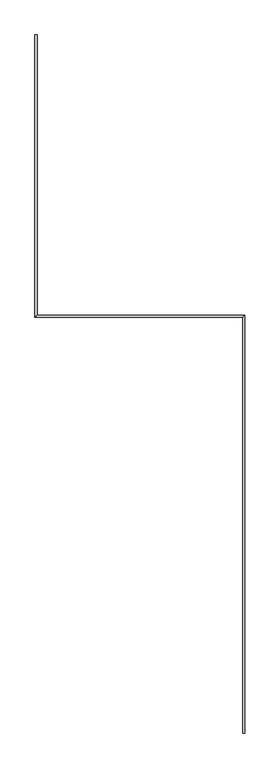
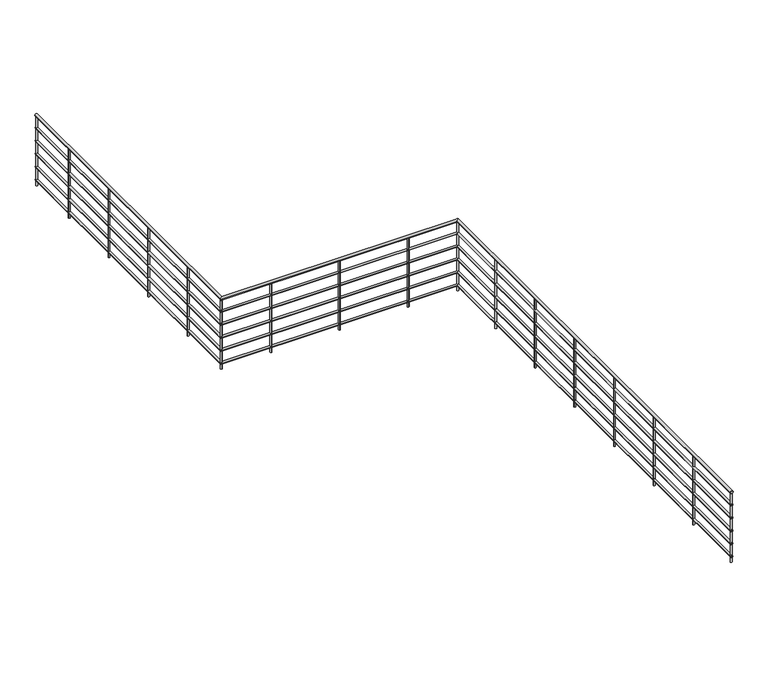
"""IFC4 building model written with IfcOpenShell, lengths in millimetres: railing geometry, r パイプ H1100."""

from ifc_helpers import new_model, si_unit, point, frame, frame_2d, origin, place, context, project, spatial, circle_curve, ellipse_curve, trimmed, segment, composite_curve, outline, extrude, source, transform, mapped, element, save
from ifc_brep_helpers import plane_surface, cylinder_surface, advanced_brep


def railing_652278a1(model_context):
    return source(origin(), model_context, "Body", "SolidModel", [
        advanced_brep(
        [(-3040.9784025, -2650.3131013, 5680.0), (-3000.9784025, -2650.3131013, 5680.0), (-3040.9784025, 4254.6868987, 5680.0), (-3000.9784025, 4294.6868987, 5680.0), (-6490.9784025, 4254.6868987, 5680.0), (-6450.9784025, 4294.6868987, 5680.0), (-6490.9784025, 8949.6868987, 5680.0), (-6450.9784025, 8949.6868987, 5680.0)],
        [
            (0, 1, circle_curve(frame((-3020.9784025, -2650.3131013, 5680.0), z_axis=(0.0, -1.0, 0.0), x_axis=(1.0, 0.0, 0.0)), 20.0)),
            (1, 0, circle_curve(frame((-3020.9784025, -2650.3131013, 5680.0), z_axis=(0.0, -1.0, 0.0), x_axis=(1.0, 0.0, 0.0)), 20.0)),
            (0, 2),
            (2, 3, ellipse_curve(frame((-3020.9784025, 4274.6868987, 5680.0), z_axis=(0.707106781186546, -0.7071067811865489, 0.0), x_axis=(-0.7071067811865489, -0.7071067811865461, 0.0)), 28.2842712, 20.0)),
            (3, 1),
            (3, 2, ellipse_curve(frame((-3020.9784025, 4274.6868987, 5680.0), z_axis=(0.707106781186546, -0.7071067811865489, 0.0), x_axis=(-0.7071067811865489, -0.7071067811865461, 0.0)), 28.2842712, 20.0)),
            (2, 4),
            (4, 5, ellipse_curve(frame((-6470.9784025, 4274.6868987, 5680.0), z_axis=(0.707106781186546, -0.7071067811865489, 0.0), x_axis=(0.707106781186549, 0.7071067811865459, 0.0)), 28.2842712, 20.0)),
            (5, 3),
            (5, 4, ellipse_curve(frame((-6470.9784025, 4274.6868987, 5680.0), z_axis=(0.707106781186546, -0.7071067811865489, 0.0), x_axis=(0.707106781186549, 0.7071067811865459, 0.0)), 28.2842712, 20.0)),
            (6, 7, circle_curve(frame((-6470.9784025, 8949.6868987, 5680.0), z_axis=(0.0, 1.0, 0.0), x_axis=(1.0, 0.0, 0.0)), 20.0)),
            (7, 6, circle_curve(frame((-6470.9784025, 8949.6868987, 5680.0), z_axis=(0.0, 1.0, 0.0), x_axis=(1.0, 0.0, 0.0)), 20.0)),
            (4, 6),
            (7, 5),
        ],
        [
            plane_surface(frame((-3020.9784025, -2650.3131013, 5700.0), z_axis=(0.0, -1.0, 0.0), x_axis=(0.0, 0.0, 1.0))),
            cylinder_surface(frame((-3020.9784025, -2650.3131013, 5680.0), z_axis=(0.0, -1.0, 0.0), x_axis=(1.0, 0.0, 0.0)), 20.0),
            cylinder_surface(frame((-3020.9784025, 4274.6868987, 5680.0), z_axis=(1.0, 0.0, 0.0), x_axis=(0.0, 1.0, 0.0)), 20.0),
            plane_surface(frame((-6470.9784025, 8949.6868987, 5700.0), z_axis=(0.0, 1.0, 0.0), x_axis=(0.0, 0.0, 1.0))),
            cylinder_surface(frame((-6470.9784025, 4274.6868987, 5680.0), z_axis=(0.0, -1.0, 0.0), x_axis=(1.0, 0.0, 0.0)), 20.0),
        ],
        [
            (0, [[1, 2]]),
            (1, [[-1, 3, 4, 5]]),
            (1, [[-2, -5, 6, -3]]),
            (2, [[-4, 7, 8, 9]]),
            (2, [[-6, -9, 10, -7]]),
            (3, [[11, 12]]),
            (4, [[-8, 13, -12, 14]]),
            (4, [[-10, -14, -11, -13]]),
        ],
    ),
        advanced_brep(
        [(-3035.9784025, -2650.3131013, 5485.0), (-3005.9784025, -2650.3131013, 5485.0), (-3035.9784025, 4259.6868987, 5485.0), (-3005.9784025, 4289.6868987, 5485.0), (-6485.9784025, 4259.6868987, 5485.0), (-6455.9784025, 4289.6868987, 5485.0), (-6485.9784025, 8949.6868987, 5485.0), (-6455.9784025, 8949.6868987, 5485.0)],
        [
            (0, 1, circle_curve(frame((-3020.9784025, -2650.3131013, 5485.0), z_axis=(0.0, -1.0, 0.0), x_axis=(1.0, 0.0, 0.0)), 15.0)),
            (1, 0, circle_curve(frame((-3020.9784025, -2650.3131013, 5485.0), z_axis=(0.0, -1.0, 0.0), x_axis=(1.0, 0.0, 0.0)), 15.0)),
            (0, 2),
            (2, 3, ellipse_curve(frame((-3020.9784025, 4274.6868987, 5485.0), z_axis=(0.707106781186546, -0.7071067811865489, 0.0), x_axis=(-0.7071067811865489, -0.7071067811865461, 0.0)), 21.2132034, 15.0)),
            (3, 1),
            (3, 2, ellipse_curve(frame((-3020.9784025, 4274.6868987, 5485.0), z_axis=(0.707106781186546, -0.7071067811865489, 0.0), x_axis=(-0.7071067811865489, -0.7071067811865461, 0.0)), 21.2132034, 15.0)),
            (2, 4),
            (4, 5, ellipse_curve(frame((-6470.9784025, 4274.6868987, 5485.0), z_axis=(0.707106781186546, -0.7071067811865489, 0.0), x_axis=(0.707106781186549, 0.7071067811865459, 0.0)), 21.2132034, 15.0)),
            (5, 3),
            (5, 4, ellipse_curve(frame((-6470.9784025, 4274.6868987, 5485.0), z_axis=(0.707106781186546, -0.7071067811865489, 0.0), x_axis=(0.707106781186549, 0.7071067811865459, 0.0)), 21.2132034, 15.0)),
            (6, 7, circle_curve(frame((-6470.9784025, 8949.6868987, 5485.0), z_axis=(0.0, 1.0, 0.0), x_axis=(1.0, 0.0, 0.0)), 15.0)),
            (7, 6, circle_curve(frame((-6470.9784025, 8949.6868987, 5485.0), z_axis=(0.0, 1.0, 0.0), x_axis=(1.0, 0.0, 0.0)), 15.0)),
            (4, 6),
            (7, 5),
        ],
        [
            plane_surface(frame((-3020.9784025, -2650.3131013, 5500.0), z_axis=(0.0, -1.0, 0.0), x_axis=(0.0, 0.0, 1.0))),
            cylinder_surface(frame((-3020.9784025, -2650.3131013, 5485.0), z_axis=(0.0, -1.0, 0.0), x_axis=(1.0, 0.0, 0.0)), 15.0),
            cylinder_surface(frame((-3020.9784025, 4274.6868987, 5485.0), z_axis=(1.0, 0.0, 0.0), x_axis=(0.0, 1.0, 0.0)), 15.0),
            plane_surface(frame((-6470.9784025, 8949.6868987, 5500.0), z_axis=(0.0, 1.0, 0.0), x_axis=(0.0, 0.0, 1.0))),
            cylinder_surface(frame((-6470.9784025, 4274.6868987, 5485.0), z_axis=(0.0, -1.0, 0.0), x_axis=(1.0, 0.0, 0.0)), 15.0),
        ],
        [
            (0, [[1, 2]]),
            (1, [[-1, 3, 4, 5]]),
            (1, [[-2, -5, 6, -3]]),
            (2, [[-4, 7, 8, 9]]),
            (2, [[-6, -9, 10, -7]]),
            (3, [[11, 12]]),
            (4, [[-8, 13, -12, 14]]),
            (4, [[-10, -14, -11, -13]]),
        ],
    ),
        advanced_brep(
        [(-3035.9784025, -2650.3131013, 5285.0), (-3005.9784025, -2650.3131013, 5285.0), (-3035.9784025, 4259.6868987, 5285.0), (-3005.9784025, 4289.6868987, 5285.0), (-6485.9784025, 4259.6868987, 5285.0), (-6455.9784025, 4289.6868987, 5285.0), (-6485.9784025, 8949.6868987, 5285.0), (-6455.9784025, 8949.6868987, 5285.0)],
        [
            (0, 1, circle_curve(frame((-3020.9784025, -2650.3131013, 5285.0), z_axis=(0.0, -1.0, 0.0), x_axis=(1.0, 0.0, 0.0)), 15.0)),
            (1, 0, circle_curve(frame((-3020.9784025, -2650.3131013, 5285.0), z_axis=(0.0, -1.0, 0.0), x_axis=(1.0, 0.0, 0.0)), 15.0)),
            (0, 2),
            (2, 3, ellipse_curve(frame((-3020.9784025, 4274.6868987, 5285.0), z_axis=(0.707106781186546, -0.7071067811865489, 0.0), x_axis=(-0.7071067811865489, -0.7071067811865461, 0.0)), 21.2132034, 15.0)),
            (3, 1),
            (3, 2, ellipse_curve(frame((-3020.9784025, 4274.6868987, 5285.0), z_axis=(0.707106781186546, -0.7071067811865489, 0.0), x_axis=(-0.7071067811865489, -0.7071067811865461, 0.0)), 21.2132034, 15.0)),
            (2, 4),
            (4, 5, ellipse_curve(frame((-6470.9784025, 4274.6868987, 5285.0), z_axis=(0.707106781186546, -0.7071067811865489, 0.0), x_axis=(0.707106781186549, 0.7071067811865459, 0.0)), 21.2132034, 15.0)),
            (5, 3),
            (5, 4, ellipse_curve(frame((-6470.9784025, 4274.6868987, 5285.0), z_axis=(0.707106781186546, -0.7071067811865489, 0.0), x_axis=(0.707106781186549, 0.7071067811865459, 0.0)), 21.2132034, 15.0)),
            (6, 7, circle_curve(frame((-6470.9784025, 8949.6868987, 5285.0), z_axis=(0.0, 1.0, 0.0), x_axis=(1.0, 0.0, 0.0)), 15.0)),
            (7, 6, circle_curve(frame((-6470.9784025, 8949.6868987, 5285.0), z_axis=(0.0, 1.0, 0.0), x_axis=(1.0, 0.0, 0.0)), 15.0)),
            (4, 6),
            (7, 5),
        ],
        [
            plane_surface(frame((-3020.9784025, -2650.3131013, 5300.0), z_axis=(0.0, -1.0, 0.0), x_axis=(0.0, 0.0, 1.0))),
            cylinder_surface(frame((-3020.9784025, -2650.3131013, 5285.0), z_axis=(0.0, -1.0, 0.0), x_axis=(1.0, 0.0, 0.0)), 15.0),
            cylinder_surface(frame((-3020.9784025, 4274.6868987, 5285.0), z_axis=(1.0, 0.0, 0.0), x_axis=(0.0, 1.0, 0.0)), 15.0),
            plane_surface(frame((-6470.9784025, 8949.6868987, 5300.0), z_axis=(0.0, 1.0, 0.0), x_axis=(0.0, 0.0, 1.0))),
            cylinder_surface(frame((-6470.9784025, 4274.6868987, 5285.0), z_axis=(0.0, -1.0, 0.0), x_axis=(1.0, 0.0, 0.0)), 15.0),
        ],
        [
            (0, [[1, 2]]),
            (1, [[-1, 3, 4, 5]]),
            (1, [[-2, -5, 6, -3]]),
            (2, [[-4, 7, 8, 9]]),
            (2, [[-6, -9, 10, -7]]),
            (3, [[11, 12]]),
            (4, [[-8, 13, -12, 14]]),
            (4, [[-10, -14, -11, -13]]),
        ],
    ),
        advanced_brep(
        [(-3035.9784025, -2650.3131013, 5085.0), (-3005.9784025, -2650.3131013, 5085.0), (-3035.9784025, 4259.6868987, 5085.0), (-3005.9784025, 4289.6868987, 5085.0), (-6485.9784025, 4259.6868987, 5085.0), (-6455.9784025, 4289.6868987, 5085.0), (-6485.9784025, 8949.6868987, 5085.0), (-6455.9784025, 8949.6868987, 5085.0)],
        [
            (0, 1, circle_curve(frame((-3020.9784025, -2650.3131013, 5085.0), z_axis=(0.0, -1.0, 0.0), x_axis=(1.0, 0.0, 0.0)), 15.0)),
            (1, 0, circle_curve(frame((-3020.9784025, -2650.3131013, 5085.0), z_axis=(0.0, -1.0, 0.0), x_axis=(1.0, 0.0, 0.0)), 15.0)),
            (0, 2),
            (2, 3, ellipse_curve(frame((-3020.9784025, 4274.6868987, 5085.0), z_axis=(0.707106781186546, -0.7071067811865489, 0.0), x_axis=(-0.7071067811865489, -0.7071067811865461, 0.0)), 21.2132034, 15.0)),
            (3, 1),
            (3, 2, ellipse_curve(frame((-3020.9784025, 4274.6868987, 5085.0), z_axis=(0.707106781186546, -0.7071067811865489, 0.0), x_axis=(-0.7071067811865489, -0.7071067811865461, 0.0)), 21.2132034, 15.0)),
            (2, 4),
            (4, 5, ellipse_curve(frame((-6470.9784025, 4274.6868987, 5085.0), z_axis=(0.707106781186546, -0.7071067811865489, 0.0), x_axis=(0.707106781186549, 0.7071067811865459, 0.0)), 21.2132034, 15.0)),
            (5, 3),
            (5, 4, ellipse_curve(frame((-6470.9784025, 4274.6868987, 5085.0), z_axis=(0.707106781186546, -0.7071067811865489, 0.0), x_axis=(0.707106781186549, 0.7071067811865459, 0.0)), 21.2132034, 15.0)),
            (6, 7, circle_curve(frame((-6470.9784025, 8949.6868987, 5085.0), z_axis=(0.0, 1.0, 0.0), x_axis=(1.0, 0.0, 0.0)), 15.0)),
            (7, 6, circle_curve(frame((-6470.9784025, 8949.6868987, 5085.0), z_axis=(0.0, 1.0, 0.0), x_axis=(1.0, 0.0, 0.0)), 15.0)),
            (4, 6),
            (7, 5),
        ],
        [
            plane_surface(frame((-3020.9784025, -2650.3131013, 5100.0), z_axis=(0.0, -1.0, 0.0), x_axis=(0.0, 0.0, 1.0))),
            cylinder_surface(frame((-3020.9784025, -2650.3131013, 5085.0), z_axis=(0.0, -1.0, 0.0), x_axis=(1.0, 0.0, 0.0)), 15.0),
            cylinder_surface(frame((-3020.9784025, 4274.6868987, 5085.0), z_axis=(1.0, 0.0, 0.0), x_axis=(0.0, 1.0, 0.0)), 15.0),
            plane_surface(frame((-6470.9784025, 8949.6868987, 5100.0), z_axis=(0.0, 1.0, 0.0), x_axis=(0.0, 0.0, 1.0))),
            cylinder_surface(frame((-6470.9784025, 4274.6868987, 5085.0), z_axis=(0.0, -1.0, 0.0), x_axis=(1.0, 0.0, 0.0)), 15.0),
        ],
        [
            (0, [[1, 2]]),
            (1, [[-1, 3, 4, 5]]),
            (1, [[-2, -5, 6, -3]]),
            (2, [[-4, 7, 8, 9]]),
            (2, [[-6, -9, 10, -7]]),
            (3, [[11, 12]]),
            (4, [[-8, 13, -12, 14]]),
            (4, [[-10, -14, -11, -13]]),
        ],
    ),
        advanced_brep(
        [(-3035.9784025, -2650.3131013, 4885.0), (-3005.9784025, -2650.3131013, 4885.0), (-3035.9784025, 4259.6868987, 4885.0), (-3005.9784025, 4289.6868987, 4885.0), (-6485.9784025, 4259.6868987, 4885.0), (-6455.9784025, 4289.6868987, 4885.0), (-6485.9784025, 8949.6868987, 4885.0), (-6455.9784025, 8949.6868987, 4885.0)],
        [
            (0, 1, circle_curve(frame((-3020.9784025, -2650.3131013, 4885.0), z_axis=(0.0, -1.0, 0.0), x_axis=(1.0, 0.0, 0.0)), 15.0)),
            (1, 0, circle_curve(frame((-3020.9784025, -2650.3131013, 4885.0), z_axis=(0.0, -1.0, 0.0), x_axis=(1.0, 0.0, 0.0)), 15.0)),
            (0, 2),
            (2, 3, ellipse_curve(frame((-3020.9784025, 4274.6868987, 4885.0), z_axis=(0.707106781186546, -0.7071067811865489, 0.0), x_axis=(-0.7071067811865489, -0.7071067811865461, 0.0)), 21.2132034, 15.0)),
            (3, 1),
            (3, 2, ellipse_curve(frame((-3020.9784025, 4274.6868987, 4885.0), z_axis=(0.707106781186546, -0.7071067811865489, 0.0), x_axis=(-0.7071067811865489, -0.7071067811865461, 0.0)), 21.2132034, 15.0)),
            (2, 4),
            (4, 5, ellipse_curve(frame((-6470.9784025, 4274.6868987, 4885.0), z_axis=(0.707106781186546, -0.7071067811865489, 0.0), x_axis=(0.707106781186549, 0.7071067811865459, 0.0)), 21.2132034, 15.0)),
            (5, 3),
            (5, 4, ellipse_curve(frame((-6470.9784025, 4274.6868987, 4885.0), z_axis=(0.707106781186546, -0.7071067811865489, 0.0), x_axis=(0.707106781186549, 0.7071067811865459, 0.0)), 21.2132034, 15.0)),
            (6, 7, circle_curve(frame((-6470.9784025, 8949.6868987, 4885.0), z_axis=(0.0, 1.0, 0.0), x_axis=(1.0, 0.0, 0.0)), 15.0)),
            (7, 6, circle_curve(frame((-6470.9784025, 8949.6868987, 4885.0), z_axis=(0.0, 1.0, 0.0), x_axis=(1.0, 0.0, 0.0)), 15.0)),
            (4, 6),
            (7, 5),
        ],
        [
            plane_surface(frame((-3020.9784025, -2650.3131013, 4900.0), z_axis=(0.0, -1.0, 0.0), x_axis=(0.0, 0.0, 1.0))),
            cylinder_surface(frame((-3020.9784025, -2650.3131013, 4885.0), z_axis=(0.0, -1.0, 0.0), x_axis=(1.0, 0.0, 0.0)), 15.0),
            cylinder_surface(frame((-3020.9784025, 4274.6868987, 4885.0), z_axis=(1.0, 0.0, 0.0), x_axis=(0.0, 1.0, 0.0)), 15.0),
            plane_surface(frame((-6470.9784025, 8949.6868987, 4900.0), z_axis=(0.0, 1.0, 0.0), x_axis=(0.0, 0.0, 1.0))),
            cylinder_surface(frame((-6470.9784025, 4274.6868987, 4885.0), z_axis=(0.0, -1.0, 0.0), x_axis=(1.0, 0.0, 0.0)), 15.0),
        ],
        [
            (0, [[1, 2]]),
            (1, [[-1, 3, 4, 5]]),
            (1, [[-2, -5, 6, -3]]),
            (2, [[-4, 7, 8, 9]]),
            (2, [[-6, -9, 10, -7]]),
            (3, [[11, 12]]),
            (4, [[-8, 13, -12, 14]]),
            (4, [[-10, -14, -11, -13]]),
        ],
    ),
        advanced_brep(
        [(-3035.9784025, -2650.3131013, 4685.0), (-3005.9784025, -2650.3131013, 4685.0), (-3035.9784025, 4259.6868987, 4685.0), (-3005.9784025, 4289.6868987, 4685.0), (-6485.9784025, 4259.6868987, 4685.0), (-6455.9784025, 4289.6868987, 4685.0), (-6485.9784025, 8949.6868987, 4685.0), (-6455.9784025, 8949.6868987, 4685.0)],
        [
            (0, 1, circle_curve(frame((-3020.9784025, -2650.3131013, 4685.0), z_axis=(0.0, -1.0, 0.0), x_axis=(1.0, 0.0, 0.0)), 15.0)),
            (1, 0, circle_curve(frame((-3020.9784025, -2650.3131013, 4685.0), z_axis=(0.0, -1.0, 0.0), x_axis=(1.0, 0.0, 0.0)), 15.0)),
            (0, 2),
            (2, 3, ellipse_curve(frame((-3020.9784025, 4274.6868987, 4685.0), z_axis=(0.707106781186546, -0.7071067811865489, 0.0), x_axis=(-0.7071067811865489, -0.7071067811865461, 0.0)), 21.2132034, 15.0)),
            (3, 1),
            (3, 2, ellipse_curve(frame((-3020.9784025, 4274.6868987, 4685.0), z_axis=(0.707106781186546, -0.7071067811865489, 0.0), x_axis=(-0.7071067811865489, -0.7071067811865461, 0.0)), 21.2132034, 15.0)),
            (2, 4),
            (4, 5, ellipse_curve(frame((-6470.9784025, 4274.6868987, 4685.0), z_axis=(0.707106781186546, -0.7071067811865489, 0.0), x_axis=(0.707106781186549, 0.7071067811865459, 0.0)), 21.2132034, 15.0)),
            (5, 3),
            (5, 4, ellipse_curve(frame((-6470.9784025, 4274.6868987, 4685.0), z_axis=(0.707106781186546, -0.7071067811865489, 0.0), x_axis=(0.707106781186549, 0.7071067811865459, 0.0)), 21.2132034, 15.0)),
            (6, 7, circle_curve(frame((-6470.9784025, 8949.6868987, 4685.0), z_axis=(0.0, 1.0, 0.0), x_axis=(1.0, 0.0, 0.0)), 15.0)),
            (7, 6, circle_curve(frame((-6470.9784025, 8949.6868987, 4685.0), z_axis=(0.0, 1.0, 0.0), x_axis=(1.0, 0.0, 0.0)), 15.0)),
            (4, 6),
            (7, 5),
        ],
        [
            plane_surface(frame((-3020.9784025, -2650.3131013, 4700.0), z_axis=(0.0, -1.0, 0.0), x_axis=(0.0, 0.0, 1.0))),
            cylinder_surface(frame((-3020.9784025, -2650.3131013, 4685.0), z_axis=(0.0, -1.0, 0.0), x_axis=(1.0, 0.0, 0.0)), 15.0),
            cylinder_surface(frame((-3020.9784025, 4274.6868987, 4685.0), z_axis=(1.0, 0.0, 0.0), x_axis=(0.0, 1.0, 0.0)), 15.0),
            plane_surface(frame((-6470.9784025, 8949.6868987, 4700.0), z_axis=(0.0, 1.0, 0.0), x_axis=(0.0, 0.0, 1.0))),
            cylinder_surface(frame((-6470.9784025, 4274.6868987, 4685.0), z_axis=(0.0, -1.0, 0.0), x_axis=(1.0, 0.0, 0.0)), 15.0),
        ],
        [
            (0, [[1, 2]]),
            (1, [[-1, 3, 4, 5]]),
            (1, [[-2, -5, 6, -3]]),
            (2, [[-4, 7, 8, 9]]),
            (2, [[-6, -9, 10, -7]]),
            (3, [[11, 12]]),
            (4, [[-8, 13, -12, 14]]),
            (4, [[-10, -14, -11, -13]]),
        ],
    ),
        extrude(outline(composite_curve([segment(trimmed(circle_curve(frame_2d((-6470.9784025, 8112.1868987)), 12.5), [point((-6483.4784025, 8112.1868987))], [point((-6458.4784025, 8112.1868987))], False, "CARTESIAN"), True, "CONTINUOUS"), segment(trimmed(circle_curve(frame_2d((-6470.9784025, 8112.1868987)), 12.5), [point((-6458.4784025, 8112.1868987))], [point((-6483.4784025, 8112.1868987))], False, "CARTESIAN"), True, "CONTINUOUS")], self_intersect=False)), frame((0.0, 0.0, 4600.0), z_axis=(0.0, 0.0, 1.0), x_axis=(1.0, 0.0, 0.0)), (0.0, 0.0, 1.0), 1060.0),
        extrude(outline(composite_curve([segment(trimmed(circle_curve(frame_2d((-6470.9784025, 7112.1868987)), 12.5), [point((-6483.4784025, 7112.1868987))], [point((-6458.4784025, 7112.1868987))], False, "CARTESIAN"), True, "CONTINUOUS"), segment(trimmed(circle_curve(frame_2d((-6470.9784025, 7112.1868987)), 12.5), [point((-6458.4784025, 7112.1868987))], [point((-6483.4784025, 7112.1868987))], False, "CARTESIAN"), True, "CONTINUOUS")], self_intersect=False)), frame((0.0, 0.0, 4600.0), z_axis=(0.0, 0.0, 1.0), x_axis=(1.0, 0.0, 0.0)), (0.0, 0.0, 1.0), 1060.0),
        extrude(outline(composite_curve([segment(trimmed(circle_curve(frame_2d((-6470.9784025, 6112.1868987)), 12.5), [point((-6483.4784025, 6112.1868987))], [point((-6458.4784025, 6112.1868987))], False, "CARTESIAN"), True, "CONTINUOUS"), segment(trimmed(circle_curve(frame_2d((-6470.9784025, 6112.1868987)), 12.5), [point((-6458.4784025, 6112.1868987))], [point((-6483.4784025, 6112.1868987))], False, "CARTESIAN"), True, "CONTINUOUS")], self_intersect=False)), frame((0.0, 0.0, 4600.0), z_axis=(0.0, 0.0, 1.0), x_axis=(1.0, 0.0, 0.0)), (0.0, 0.0, 1.0), 1060.0),
        extrude(outline(composite_curve([segment(trimmed(circle_curve(frame_2d((-6470.9784025, 5112.1868987)), 12.5), [point((-6483.4784025, 5112.1868987))], [point((-6458.4784025, 5112.1868987))], False, "CARTESIAN"), True, "CONTINUOUS"), segment(trimmed(circle_curve(frame_2d((-6470.9784025, 5112.1868987)), 12.5), [point((-6458.4784025, 5112.1868987))], [point((-6483.4784025, 5112.1868987))], False, "CARTESIAN"), True, "CONTINUOUS")], self_intersect=False)), frame((0.0, 0.0, 4600.0), z_axis=(0.0, 0.0, 1.0), x_axis=(1.0, 0.0, 0.0)), (0.0, 0.0, 1.0), 1060.0),
        extrude(outline(composite_curve([segment(trimmed(circle_curve(frame_2d((-5745.9784025, 4274.6868987)), 12.5), [point((-5745.9784025, 4262.1868987))], [point((-5745.9784025, 4287.1868987))], False, "CARTESIAN"), True, "CONTINUOUS"), segment(trimmed(circle_curve(frame_2d((-5745.9784025, 4274.6868987)), 12.5), [point((-5745.9784025, 4287.1868987))], [point((-5745.9784025, 4262.1868987))], False, "CARTESIAN"), True, "CONTINUOUS")], self_intersect=False)), frame((0.0, 0.0, 4600.0), z_axis=(0.0, 0.0, 1.0), x_axis=(1.0, 0.0, 0.0)), (0.0, 0.0, 1.0), 1060.0),
        extrude(outline(composite_curve([segment(trimmed(circle_curve(frame_2d((-4745.9784025, 4274.6868987)), 12.5), [point((-4745.9784025, 4262.1868987))], [point((-4745.9784025, 4287.1868987))], False, "CARTESIAN"), True, "CONTINUOUS"), segment(trimmed(circle_curve(frame_2d((-4745.9784025, 4274.6868987)), 12.5), [point((-4745.9784025, 4287.1868987))], [point((-4745.9784025, 4262.1868987))], False, "CARTESIAN"), True, "CONTINUOUS")], self_intersect=False)), frame((0.0, 0.0, 4600.0), z_axis=(0.0, 0.0, 1.0), x_axis=(1.0, 0.0, 0.0)), (0.0, 0.0, 1.0), 1060.0),
        extrude(outline(composite_curve([segment(trimmed(circle_curve(frame_2d((-3745.9784025, 4274.6868987)), 12.5), [point((-3745.9784025, 4262.1868987))], [point((-3745.9784025, 4287.1868987))], False, "CARTESIAN"), True, "CONTINUOUS"), segment(trimmed(circle_curve(frame_2d((-3745.9784025, 4274.6868987)), 12.5), [point((-3745.9784025, 4287.1868987))], [point((-3745.9784025, 4262.1868987))], False, "CARTESIAN"), True, "CONTINUOUS")], self_intersect=False)), frame((0.0, 0.0, 4600.0), z_axis=(0.0, 0.0, 1.0), x_axis=(1.0, 0.0, 0.0)), (0.0, 0.0, 1.0), 1060.0),
        extrude(outline(composite_curve([segment(trimmed(circle_curve(frame_2d((-3020.9784025, 3312.1868987)), 12.5), [point((-3033.4784025, 3312.1868987))], [point((-3008.4784025, 3312.1868987))], False, "CARTESIAN"), True, "CONTINUOUS"), segment(trimmed(circle_curve(frame_2d((-3020.9784025, 3312.1868987)), 12.5), [point((-3008.4784025, 3312.1868987))], [point((-3033.4784025, 3312.1868987))], False, "CARTESIAN"), True, "CONTINUOUS")], self_intersect=False)), frame((0.0, 0.0, 4600.0), z_axis=(0.0, 0.0, 1.0), x_axis=(1.0, 0.0, 0.0)), (0.0, 0.0, 1.0), 1060.0),
        extrude(outline(composite_curve([segment(trimmed(circle_curve(frame_2d((-3020.9784025, 2312.1868987)), 12.5), [point((-3033.4784025, 2312.1868987))], [point((-3008.4784025, 2312.1868987))], False, "CARTESIAN"), True, "CONTINUOUS"), segment(trimmed(circle_curve(frame_2d((-3020.9784025, 2312.1868987)), 12.5), [point((-3008.4784025, 2312.1868987))], [point((-3033.4784025, 2312.1868987))], False, "CARTESIAN"), True, "CONTINUOUS")], self_intersect=False)), frame((0.0, 0.0, 4600.0), z_axis=(0.0, 0.0, 1.0), x_axis=(1.0, 0.0, 0.0)), (0.0, 0.0, 1.0), 1060.0),
        extrude(outline(composite_curve([segment(trimmed(circle_curve(frame_2d((-3020.9784025, 1312.1868987)), 12.5), [point((-3033.4784025, 1312.1868987))], [point((-3008.4784025, 1312.1868987))], False, "CARTESIAN"), True, "CONTINUOUS"), segment(trimmed(circle_curve(frame_2d((-3020.9784025, 1312.1868987)), 12.5), [point((-3008.4784025, 1312.1868987))], [point((-3033.4784025, 1312.1868987))], False, "CARTESIAN"), True, "CONTINUOUS")], self_intersect=False)), frame((0.0, 0.0, 4600.0), z_axis=(0.0, 0.0, 1.0), x_axis=(1.0, 0.0, 0.0)), (0.0, 0.0, 1.0), 1060.0),
        extrude(outline(composite_curve([segment(trimmed(circle_curve(frame_2d((-3020.9784025, 312.1868987)), 12.5), [point((-3033.4784025, 312.1868987))], [point((-3008.4784025, 312.1868987))], False, "CARTESIAN"), True, "CONTINUOUS"), segment(trimmed(circle_curve(frame_2d((-3020.9784025, 312.1868987)), 12.5), [point((-3008.4784025, 312.1868987))], [point((-3033.4784025, 312.1868987))], False, "CARTESIAN"), True, "CONTINUOUS")], self_intersect=False)), frame((0.0, 0.0, 4600.0), z_axis=(0.0, 0.0, 1.0), x_axis=(1.0, 0.0, 0.0)), (0.0, 0.0, 1.0), 1060.0),
        extrude(outline(composite_curve([segment(trimmed(circle_curve(frame_2d((-3020.9784025, -687.8131013)), 12.5), [point((-3033.4784025, -687.8131013))], [point((-3008.4784025, -687.8131013))], False, "CARTESIAN"), True, "CONTINUOUS"), segment(trimmed(circle_curve(frame_2d((-3020.9784025, -687.8131013)), 12.5), [point((-3008.4784025, -687.8131013))], [point((-3033.4784025, -687.8131013))], False, "CARTESIAN"), True, "CONTINUOUS")], self_intersect=False)), frame((0.0, 0.0, 4600.0), z_axis=(0.0, 0.0, 1.0), x_axis=(1.0, 0.0, 0.0)), (0.0, 0.0, 1.0), 1060.0),
        extrude(outline(composite_curve([segment(trimmed(circle_curve(frame_2d((-3020.9784025, -1687.8131013)), 12.5), [point((-3033.4784025, -1687.8131013))], [point((-3008.4784025, -1687.8131013))], False, "CARTESIAN"), True, "CONTINUOUS"), segment(trimmed(circle_curve(frame_2d((-3020.9784025, -1687.8131013)), 12.5), [point((-3008.4784025, -1687.8131013))], [point((-3033.4784025, -1687.8131013))], False, "CARTESIAN"), True, "CONTINUOUS")], self_intersect=False)), frame((0.0, 0.0, 4600.0), z_axis=(0.0, 0.0, 1.0), x_axis=(1.0, 0.0, 0.0)), (0.0, 0.0, 1.0), 1060.0),
        extrude(outline(composite_curve([segment(trimmed(circle_curve(frame_2d((-6470.9784025, 4274.6868987)), 12.5), [point((-6470.9784025, 4262.1868987))], [point((-6470.9784025, 4287.1868987))], False, "CARTESIAN"), True, "CONTINUOUS"), segment(trimmed(circle_curve(frame_2d((-6470.9784025, 4274.6868987)), 12.5), [point((-6470.9784025, 4287.1868987))], [point((-6470.9784025, 4262.1868987))], False, "CARTESIAN"), True, "CONTINUOUS")], self_intersect=False)), frame((0.0, 0.0, 4600.0), z_axis=(0.0, 0.0, 1.0), x_axis=(1.0, 0.0, 0.0)), (0.0, 0.0, 1.0), 1060.0),
        extrude(outline(composite_curve([segment(trimmed(circle_curve(frame_2d((-3020.9784025, 4274.6868987)), 12.5), [point((-3033.4784025, 4274.6868987))], [point((-3008.4784025, 4274.6868987))], False, "CARTESIAN"), True, "CONTINUOUS"), segment(trimmed(circle_curve(frame_2d((-3020.9784025, 4274.6868987)), 12.5), [point((-3008.4784025, 4274.6868987))], [point((-3033.4784025, 4274.6868987))], False, "CARTESIAN"), True, "CONTINUOUS")], self_intersect=False)), frame((0.0, 0.0, 4600.0), z_axis=(0.0, 0.0, 1.0), x_axis=(1.0, 0.0, 0.0)), (0.0, 0.0, 1.0), 1060.0),
        extrude(outline(composite_curve([segment(trimmed(circle_curve(frame_2d((-6470.9784025, 8937.4868987)), 12.5), [point((-6483.4784025, 8937.4868987))], [point((-6458.4784025, 8937.4868987))], False, "CARTESIAN"), True, "CONTINUOUS"), segment(trimmed(circle_curve(frame_2d((-6470.9784025, 8937.4868987)), 12.5), [point((-6458.4784025, 8937.4868987))], [point((-6483.4784025, 8937.4868987))], False, "CARTESIAN"), True, "CONTINUOUS")], self_intersect=False)), frame((0.0, 0.0, 4600.0), z_axis=(0.0, 0.0, 1.0), x_axis=(1.0, 0.0, 0.0)), (0.0, 0.0, 1.0), 1060.0),
        extrude(outline(composite_curve([segment(trimmed(circle_curve(frame_2d((-3020.9784025, -2638.1131013)), 12.5), [point((-3033.4784025, -2638.1131013))], [point((-3008.4784025, -2638.1131013))], False, "CARTESIAN"), True, "CONTINUOUS"), segment(trimmed(circle_curve(frame_2d((-3020.9784025, -2638.1131013)), 12.5), [point((-3008.4784025, -2638.1131013))], [point((-3033.4784025, -2638.1131013))], False, "CARTESIAN"), True, "CONTINUOUS")], self_intersect=False)), frame((0.0, 0.0, 4600.0), z_axis=(0.0, 0.0, 1.0), x_axis=(1.0, 0.0, 0.0)), (0.0, 0.0, 1.0), 1060.0),
    ])


if __name__ == "__main__":
    model = new_model("IFC4")
    model_context = context("Model", 3, world=origin())
    ifc_project = project(units=[si_unit("LENGTHUNIT", "METRE", prefix="MILLI")], contexts=[model_context])
    site = spatial("IfcSite", under=ifc_project)
    building = spatial("IfcBuilding", under=site)
    placement = place(None, origin())
    railing_shape = railing_652278a1(model_context)
    element("IfcRailing", 1, ObjectType="r パイプ H1100", at=placement, inside=building, context=model_context, shape_type="MappedRepresentation", body=[
        mapped(railing_shape, transform((0.0, 0.0, 0.0), x_axis=(1.0, 0.0, 0.0), y_axis=(0.0, 1.0, 0.0), z_axis=(0.0, 0.0, 1.0))),
    ])
    save(model, "model.ifc")
